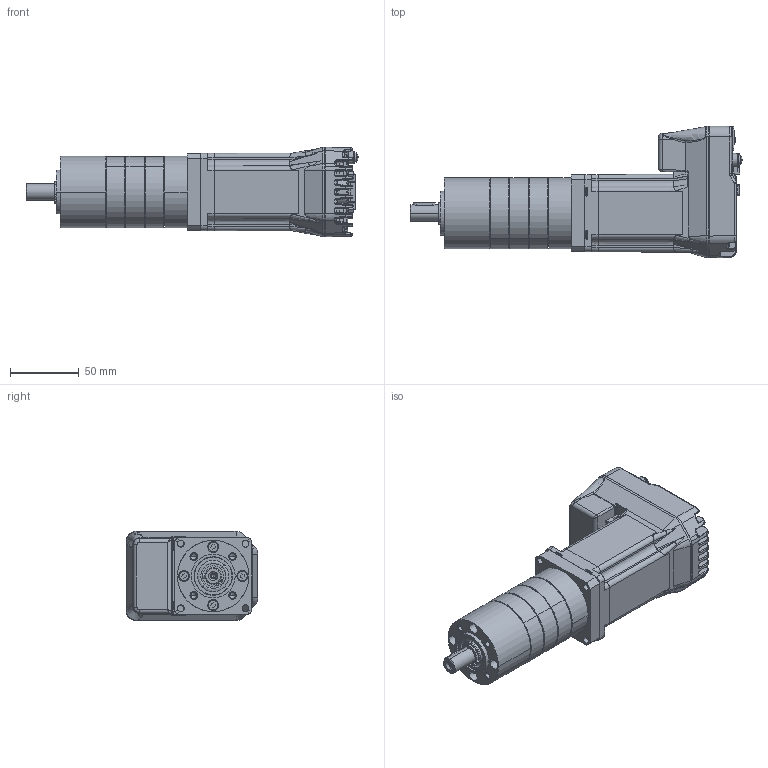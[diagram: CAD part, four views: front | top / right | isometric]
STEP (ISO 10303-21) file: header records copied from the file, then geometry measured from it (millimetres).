
FILE_DESCRIPTION (( 'STEP AP214' ), '1' );
FILE_NAME ('LMD23 + PM52 3etages.STEP', '2016-06-02T15:06:56', ( '' ), ( '' ), 'SwSTEP 2.0', 'SolidWorks 2014', '' );
FILE_SCHEMA (( 'AUTOMOTIVE_DESIGN' ));
Length unit declared in the file: millimetre
Products named in the file (17): PM52 pour EC45Flat-70W_3 etages; Coté moteur^PM52 pour EC45Flat-70W; Coté sortie^PM52 pour EC45Flat-70W; SCHRAUBE_1241978_6; 4X4X16_D6885A_2; D471_12X1_5_2; 8102168_ABTRIEB_LK1_KPL_2; GK2152_POS31_2_LAGERBOLZEN_2; 8101171_ABTRIEB_ROHTEIL_AF0_2; DIN998_PS_12X18X1_2; D625-6001-2RS_2; 8006231_LAGERFLANSCH_2; 8006230_ZAHNKRANZ_Z46_2; 8006405_DICHTRING_2; LMD23 + PM52 3etages; LMD23_Part; ADAPT pm52 POUR lmd23_Part
Assembly tree (28 placements, depth 5):
  LMD23 + PM52 3etages
    PM52 pour EC45Flat-70W_3 etages
      8006405_DICHTRING_2  x2
      8006230_ZAHNKRANZ_Z46_2  x3
      Coté sortie^PM52 pour EC45Flat-70W
        8006231_LAGERFLANSCH_2
        D625-6001-2RS_2  x2
        DIN998_PS_12X18X1_2  x2
        8102168_ABTRIEB_LK1_KPL_2
          8101171_ABTRIEB_ROHTEIL_AF0_2
          GK2152_POS31_2_LAGERBOLZEN_2  x3
        D471_12X1_5_2
        4X4X16_D6885A_2
        8006405_DICHTRING_2
        SCHRAUBE_1241978_6  x4
      Coté moteur^PM52 pour EC45Flat-70W
        8006405_DICHTRING_2
    ADAPT pm52 POUR lmd23_Part
    LMD23_Part
Bounding box: 242.13 x 96.07 x 65.15 mm (x, y, z)
Volume: 543008.8 mm3; surface area: 135390.6 mm2
Topology: 22 solids, 39 shells, 3465 faces, 8986 edges, 5636 vertices
Faces by surface type: plane 1438, cylinder 1191, bspline 587, cone 237, torus 12
Entity records: 161902 total; most frequent: CARTESIAN_POINT 72856, ORIENTED_EDGE 14508, DIRECTION 10250, EDGE_CURVE 7266, VERTEX_POINT 4575, VECTOR 3466, LINE 3466, AXIS2_PLACEMENT_3D 3392
